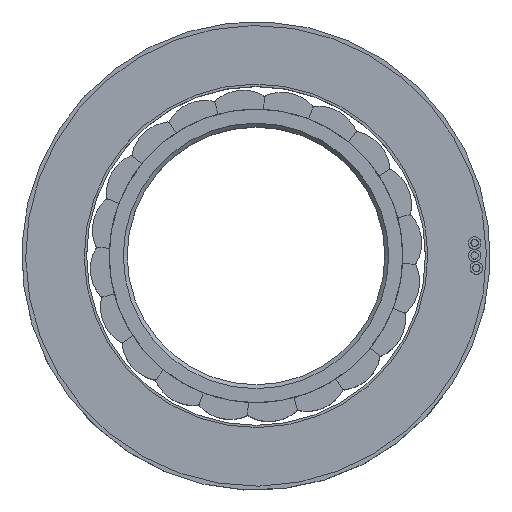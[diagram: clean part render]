
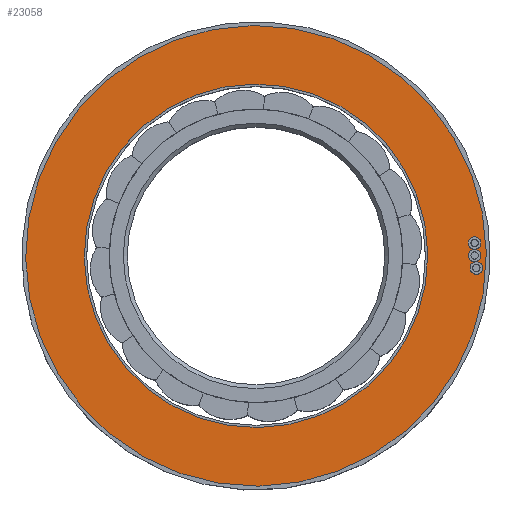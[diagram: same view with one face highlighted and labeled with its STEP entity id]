
A CAD part, top view. The second image highlights one B-rep face of the part: STEP entity #23058.
In plain terms, the highlighted planar face has unit normal (0, 0, 1).
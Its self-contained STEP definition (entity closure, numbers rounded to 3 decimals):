
#1195 = DIRECTION ( 'NONE',  ( 0., 0., 1. ) ) ;
#1499 = DIRECTION ( 'NONE',  ( 0.872, -0.489, 0. ) ) ;
#2495 = DIRECTION ( 'NONE',  ( 0.872, -0.489, 0. ) ) ;
#3021 = AXIS2_PLACEMENT_3D ( 'NONE', #24967, #1195, #1499 ) ;
#6465 = CIRCLE ( 'NONE', #10454, 22. ) ;
#6731 = CARTESIAN_POINT ( 'NONE',  ( 0., 0., 18. ) ) ;
#7489 = CARTESIAN_POINT ( 'NONE',  ( 0., 0., 18. ) ) ;
#7569 = CARTESIAN_POINT ( 'NONE',  ( 25.732, -14.425, 18. ) ) ;
#9349 = DIRECTION ( 'NONE',  ( 0., 0., 1. ) ) ;
#9380 = ORIENTED_EDGE ( 'NONE', *, *, #15217, .T. ) ;
#10007 = EDGE_LOOP ( 'NONE', ( #9380 ) ) ;
#10454 = AXIS2_PLACEMENT_3D ( 'NONE', #6731, #23760, #28304 ) ;
#12122 = AXIS2_PLACEMENT_3D ( 'NONE', #7489, #9349, #2495 ) ;
#14549 = FACE_OUTER_BOUND ( 'NONE', #10007, .T. ) ;
#15217 = EDGE_CURVE ( 'NONE', #29126, #29126, #22991, .T. ) ;
#16817 = EDGE_CURVE ( 'NONE', #26804, #26804, #6465, .T. ) ;
#18954 = CARTESIAN_POINT ( 'NONE',  ( 19.19, -10.758, 18. ) ) ;
#19203 = EDGE_LOOP ( 'NONE', ( #29894 ) ) ;
#19319 = FACE_BOUND ( 'NONE', #19203, .T. ) ;
#22991 = CIRCLE ( 'NONE', #3021, 29.5 ) ;
#23058 = ADVANCED_FACE ( 'NONE', ( #14549, #19319 ), #26279, .T. ) ;
#23760 = DIRECTION ( 'NONE',  ( 0., 0., 1. ) ) ;
#24967 = CARTESIAN_POINT ( 'NONE',  ( 0., 0., 18. ) ) ;
#26279 = PLANE ( 'NONE',  #12122 ) ;
#26804 = VERTEX_POINT ( 'NONE', #18954 ) ;
#28304 = DIRECTION ( 'NONE',  ( 0.872, -0.489, 0. ) ) ;
#29126 = VERTEX_POINT ( 'NONE', #7569 ) ;
#29894 = ORIENTED_EDGE ( 'NONE', *, *, #16817, .F. ) ;
